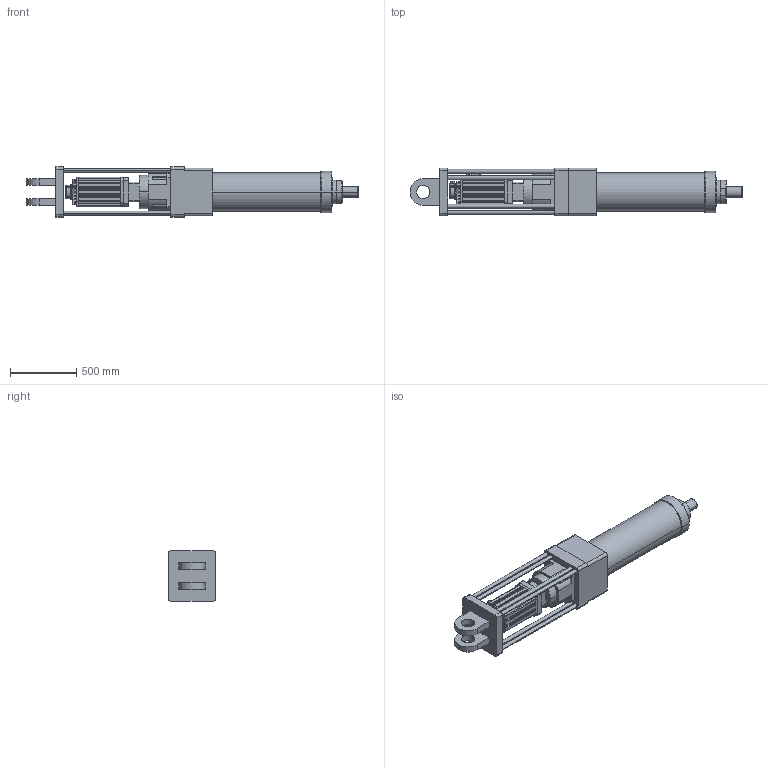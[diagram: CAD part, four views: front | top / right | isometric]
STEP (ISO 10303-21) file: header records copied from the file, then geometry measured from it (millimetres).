
FILE_DESCRIPTION (( 'STEP AP203' ), '1' );
FILE_NAME ('S12眻盄綴帣蝓假蚾.STEP', '2024-08-16T07:09:23', ( '' ), ( '' ), 'SwSTEP 2.0', 'SolidWorks 2018', '' );
FILE_SCHEMA (( 'CONFIG_CONTROL_DESIGN' ));
Length unit declared in the file: millimetre
Products named in the file (4): S12眻盄綴帣蝓; S12眻盄綴帣蝓假蚾; 000; ECMA-F1221BS3-220框號系列機種-11KW高慣量系列
Assembly tree (3 placements, depth 2):
  S12眻盄綴帣蝓假蚾
    S12眻盄綴帣蝓
    000
    ECMA-F1221BS3-220框號系列機種-11KW高慣量系列
Bounding box: 2508 x 360 x 380 mm (x, y, z)
Volume: 141524685.9 mm3; surface area: 4020275.7 mm2
Topology: 2 solids, 8 shells, 934 faces, 2420 edges, 1562 vertices
Faces by surface type: plane 448, cylinder 331, cone 116, bspline 18, torus 13, sphere 8
Entity records: 30985 total; most frequent: CARTESIAN_POINT 7810, DIRECTION 4773, ORIENTED_EDGE 4552, EDGE_CURVE 2418, AXIS2_PLACEMENT_3D 1753, VERTEX_POINT 1562, LINE 1267, VECTOR 1267
